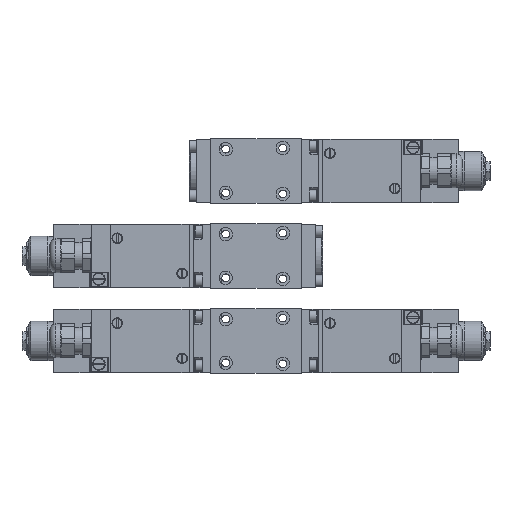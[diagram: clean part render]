
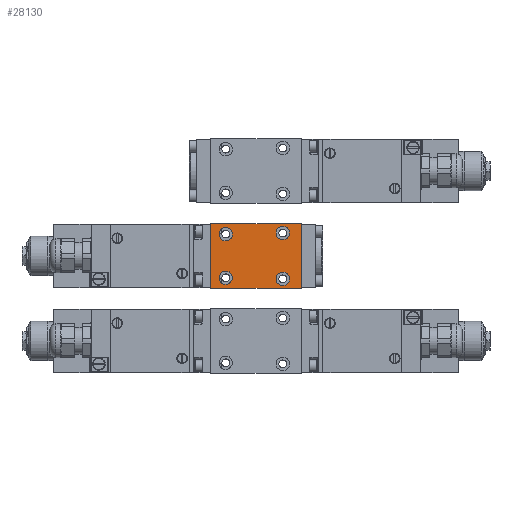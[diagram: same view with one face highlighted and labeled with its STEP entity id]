
A CAD part, top view. The second image highlights one B-rep face of the part: STEP entity #28130.
In plain terms, the highlighted planar face has unit normal (0, 0, 1).
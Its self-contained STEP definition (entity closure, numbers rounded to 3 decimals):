
#28130=ADVANCED_FACE('', (#28140,#28150,#28160,#28170,#28180), #28190, 
.T.);
#99610=AXIS2_PLACEMENT_3D('Ax2Pl3d', #99620, #99630, #99640);
#99650=AXIS2_PLACEMENT_3D('Ax2Pl3d', #99660, #99670, #99680);
#99690=AXIS2_PLACEMENT_3D('Ax2Pl3d', #99700, #99710, #99720);
#99730=AXIS2_PLACEMENT_3D('Ax2Pl3d', #99740, #99750, #99760);
#99770=AXIS2_PLACEMENT_3D('Ax2Pl3d', #99780, #99790, #99800);
#99620=CARTESIAN_POINT('HicPkt', (10.5,67.5,226.));
#210610=CARTESIAN_POINT('', (10.5,72.25,226.));
#99660=CARTESIAN_POINT('HicPkt', (0.,106.,226.));
#210640=CARTESIAN_POINT('', (0.,60.,226.));
#210650=CARTESIAN_POINT('', (0.,106.,226.));
#210660=CARTESIAN_POINT('', (0.,60.,226.));
#210670=CARTESIAN_POINT('', (64.,60.,226.));
#210680=CARTESIAN_POINT('', (64.,60.,226.));
#210690=CARTESIAN_POINT('', (64.,106.,226.));
#210700=CARTESIAN_POINT('', (64.,106.,226.));
#210710=CARTESIAN_POINT('', (0.,106.,226.));
#99700=CARTESIAN_POINT('HicPkt', (10.5,98.5,226.));
#210720=CARTESIAN_POINT('', (10.5,103.25,226.));
#99740=CARTESIAN_POINT('HicPkt', (51.,66.75,226.));
#210730=CARTESIAN_POINT('', (51.,71.5,226.));
#99780=CARTESIAN_POINT('HicPkt', (51.,99.25,226.));
#210740=CARTESIAN_POINT('', (51.,104.,226.));
#227300=CIRCLE('Circle', #99610, 4.75);
#227310=CIRCLE('Circle', #99690, 4.75);
#227320=CIRCLE('Circle', #99730, 4.75);
#227330=CIRCLE('Circle', #99770, 4.75);
#99630=DIRECTION('Axis', (0.,0.,1.));
#99640=DIRECTION('RefDirection', (1.,0.,0.));
#99670=DIRECTION('Axis', (0.,0.,1.));
#99680=DIRECTION('RefDirection', (1.,0.,0.));
#330380=DIRECTION('', (0.,-1.,0.));
#330390=DIRECTION('', (1.,0.,0.));
#330400=DIRECTION('', (0.,1.,0.));
#330410=DIRECTION('', (-1.,0.,0.));
#99710=DIRECTION('Axis', (0.,0.,1.));
#99720=DIRECTION('RefDirection', (1.,0.,0.));
#99750=DIRECTION('Axis', (0.,0.,1.));
#99760=DIRECTION('RefDirection', (1.,0.,0.));
#99790=DIRECTION('Axis', (0.,0.,1.));
#99800=DIRECTION('RefDirection', (1.,0.,0.));
#374360=EDGE_CURVE('', #374370, #374370, #227300, .T.);
#374420=EDGE_CURVE('', #374430, #374440, #374450, .T.);
#374460=EDGE_CURVE('', #374440, #374470, #374480, .T.);
#374490=EDGE_CURVE('', #374470, #374500, #374510, .T.);
#374520=EDGE_CURVE('', #374500, #374430, #374530, .T.);
#374540=EDGE_CURVE('', #374550, #374550, #227310, .T.);
#374560=EDGE_CURVE('', #374570, #374570, #227320, .T.);
#374580=EDGE_CURVE('', #374590, #374590, #227330, .T.);
#438610=EDGE_LOOP('Edge_loop', (#438620,#438630,#438640,#438650));
#438660=EDGE_LOOP('Edge_loop', (#438670));
#438680=EDGE_LOOP('Edge_loop', (#438690));
#438700=EDGE_LOOP('Edge_loop', (#438710));
#438720=EDGE_LOOP('Edge_loop', (#438730));
#28150=FACE_BOUND('', #438660, .T.);
#28160=FACE_BOUND('', #438680, .T.);
#28170=FACE_BOUND('', #438700, .T.);
#28180=FACE_BOUND('', #438720, .T.);
#28140=FACE_OUTER_BOUND('Face_outer_bound', #438610, .T.);
#374450=LINE('Line', #210640, #499260);
#374480=LINE('Line', #210670, #499270);
#374510=LINE('Line', #210690, #499280);
#374530=LINE('Line', #210710, #499290);
#438620=ORIENTED_EDGE('', *, *, #374420, .T.);
#438630=ORIENTED_EDGE('', *, *, #374460, .T.);
#438640=ORIENTED_EDGE('', *, *, #374490, .T.);
#438650=ORIENTED_EDGE('', *, *, #374520, .T.);
#438670=ORIENTED_EDGE('', *, *, #374360, .F.);
#438690=ORIENTED_EDGE('', *, *, #374540, .F.);
#438710=ORIENTED_EDGE('', *, *, #374560, .F.);
#438730=ORIENTED_EDGE('', *, *, #374580, .F.);
#28190=PLANE('Plane', #99650);
#499260=VECTOR('', #330380, 46.);
#499270=VECTOR('', #330390, 64.);
#499280=VECTOR('', #330400, 46.);
#499290=VECTOR('', #330410, 64.);
#374370=VERTEX_POINT('', #210610);
#374430=VERTEX_POINT('', #210650);
#374440=VERTEX_POINT('', #210660);
#374470=VERTEX_POINT('', #210680);
#374500=VERTEX_POINT('', #210700);
#374550=VERTEX_POINT('', #210720);
#374570=VERTEX_POINT('', #210730);
#374590=VERTEX_POINT('', #210740);
